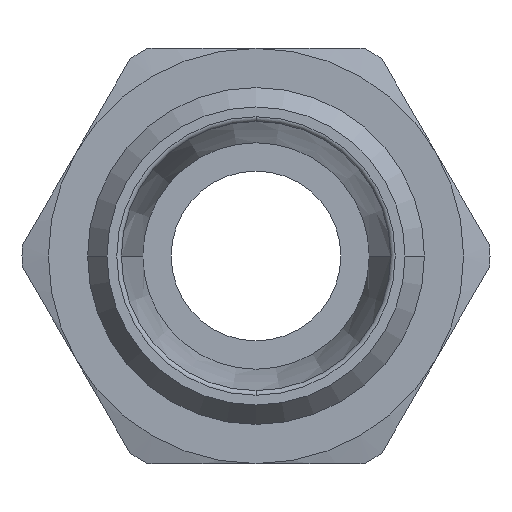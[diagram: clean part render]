
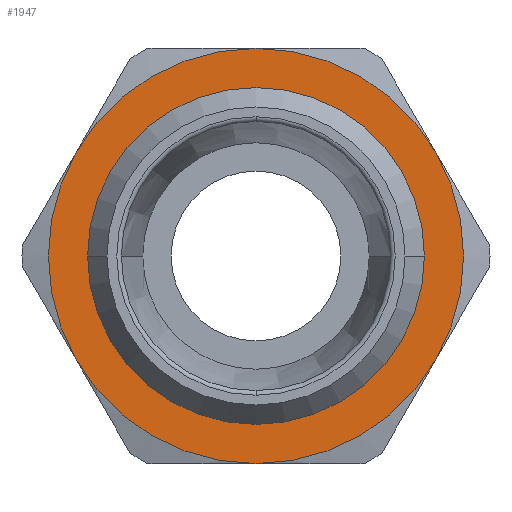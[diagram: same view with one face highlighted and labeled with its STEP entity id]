
A CAD part, left-side view. The second image highlights one B-rep face of the part: STEP entity #1947.
In plain terms, the highlighted planar face has unit normal (-1, 0, 0) as drawn and (0, 0, 1) by its records, which use the part's own axes.
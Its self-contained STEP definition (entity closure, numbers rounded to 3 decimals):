
#857=CARTESIAN_POINT('',(-8.8,0.,3.0));
#858=VERTEX_POINT('',#857);
#884=CARTESIAN_POINT('',(8.8,0.,3.0));
#885=VERTEX_POINT('',#884);
#893=CARTESIAN_POINT('',(0.,0.,3.0));
#894=DIRECTION('',(0.0,0.0,1.0));
#895=DIRECTION('',(-1.0,0.0,0.0));
#896=AXIS2_PLACEMENT_3D('',#893,#894,#895);
#897=CIRCLE('',#896,8.8);
#898=EDGE_CURVE('',#885,#858,#897,.T.);
#1827=CARTESIAN_POINT('',(0.,-8.8,3.));
#1828=VERTEX_POINT('',#1827);
#1829=CARTESIAN_POINT('',(0.,0.,3.0));
#1830=DIRECTION('',(0.0,0.0,1.0));
#1831=DIRECTION('',(-1.0,0.0,0.0));
#1832=AXIS2_PLACEMENT_3D('',#1829,#1830,#1831);
#1833=CIRCLE('',#1832,8.8);
#1834=EDGE_CURVE('',#858,#1828,#1833,.T.);
#1836=CARTESIAN_POINT('',(0.,0.,3.0));
#1837=DIRECTION('',(0.0,0.0,1.0));
#1838=DIRECTION('',(-1.0,0.0,0.0));
#1839=AXIS2_PLACEMENT_3D('',#1836,#1837,#1838);
#1840=CIRCLE('',#1839,8.8);
#1841=EDGE_CURVE('',#1828,#885,#1840,.T.);
#1881=CARTESIAN_POINT('',(0.0,0.,3.0));
#1882=DIRECTION('',(0.0,0.0,1.0));
#1883=DIRECTION('',(1.0,0.0,0.0));
#1884=AXIS2_PLACEMENT_3D('',#1881,#1882,#1883);
#1885=PLANE('',#1884);
#1886=CARTESIAN_POINT('',(5.5,-9.526,3.));
#1887=VERTEX_POINT('',#1886);
#1888=CARTESIAN_POINT('',(11.,0.0,3.));
#1889=VERTEX_POINT('',#1888);
#1890=CARTESIAN_POINT('',(0.,0.0,3.0));
#1891=DIRECTION('',(0.0,0.0,1.0));
#1892=DIRECTION('',(1.0,0.0,0.0));
#1893=AXIS2_PLACEMENT_3D('',#1890,#1891,#1892);
#1894=CIRCLE('',#1893,11.);
#1895=EDGE_CURVE('',#1887,#1889,#1894,.T.);
#1896=ORIENTED_EDGE('',*,*,#1895,.T.);
#1897=CARTESIAN_POINT('',(5.5,9.526,3.));
#1898=VERTEX_POINT('',#1897);
#1899=CARTESIAN_POINT('',(0.,0.0,3.0));
#1900=DIRECTION('',(0.0,0.0,1.0));
#1901=DIRECTION('',(1.0,0.0,0.0));
#1902=AXIS2_PLACEMENT_3D('',#1899,#1900,#1901);
#1903=CIRCLE('',#1902,11.);
#1904=EDGE_CURVE('',#1889,#1898,#1903,.T.);
#1905=ORIENTED_EDGE('',*,*,#1904,.T.);
#1906=CARTESIAN_POINT('',(-5.5,9.526,3.));
#1907=VERTEX_POINT('',#1906);
#1908=CARTESIAN_POINT('',(0.,0.0,3.0));
#1909=DIRECTION('',(0.0,0.0,1.0));
#1910=DIRECTION('',(1.0,0.0,0.0));
#1911=AXIS2_PLACEMENT_3D('',#1908,#1909,#1910);
#1912=CIRCLE('',#1911,11.);
#1913=EDGE_CURVE('',#1898,#1907,#1912,.T.);
#1914=ORIENTED_EDGE('',*,*,#1913,.T.);
#1915=CARTESIAN_POINT('',(-11.0,0.,3.));
#1916=VERTEX_POINT('',#1915);
#1917=CARTESIAN_POINT('',(0.,0.0,3.0));
#1918=DIRECTION('',(0.0,0.0,1.0));
#1919=DIRECTION('',(1.0,0.0,0.0));
#1920=AXIS2_PLACEMENT_3D('',#1917,#1918,#1919);
#1921=CIRCLE('',#1920,11.);
#1922=EDGE_CURVE('',#1907,#1916,#1921,.T.);
#1923=ORIENTED_EDGE('',*,*,#1922,.T.);
#1924=CARTESIAN_POINT('',(-5.5,-9.526,3.));
#1925=VERTEX_POINT('',#1924);
#1926=CARTESIAN_POINT('',(0.,0.0,3.0));
#1927=DIRECTION('',(0.0,0.0,1.0));
#1928=DIRECTION('',(1.0,0.0,0.0));
#1929=AXIS2_PLACEMENT_3D('',#1926,#1927,#1928);
#1930=CIRCLE('',#1929,11.);
#1931=EDGE_CURVE('',#1916,#1925,#1930,.T.);
#1932=ORIENTED_EDGE('',*,*,#1931,.T.);
#1933=CARTESIAN_POINT('',(0.,0.0,3.0));
#1934=DIRECTION('',(0.0,0.0,1.0));
#1935=DIRECTION('',(1.0,0.0,0.0));
#1936=AXIS2_PLACEMENT_3D('',#1933,#1934,#1935);
#1937=CIRCLE('',#1936,11.);
#1938=EDGE_CURVE('',#1925,#1887,#1937,.T.);
#1939=ORIENTED_EDGE('',*,*,#1938,.T.);
#1940=EDGE_LOOP('',(#1896,#1905,#1914,#1923,#1932,#1939));
#1941=FACE_OUTER_BOUND('',#1940,.T.);
#1942=ORIENTED_EDGE('',*,*,#1841,.F.);
#1943=ORIENTED_EDGE('',*,*,#1834,.F.);
#1944=ORIENTED_EDGE('',*,*,#898,.F.);
#1945=EDGE_LOOP('',(#1942,#1943,#1944));
#1946=FACE_BOUND('',#1945,.T.);
#1947=ADVANCED_FACE('',(#1941,#1946),#1885,.T.);
